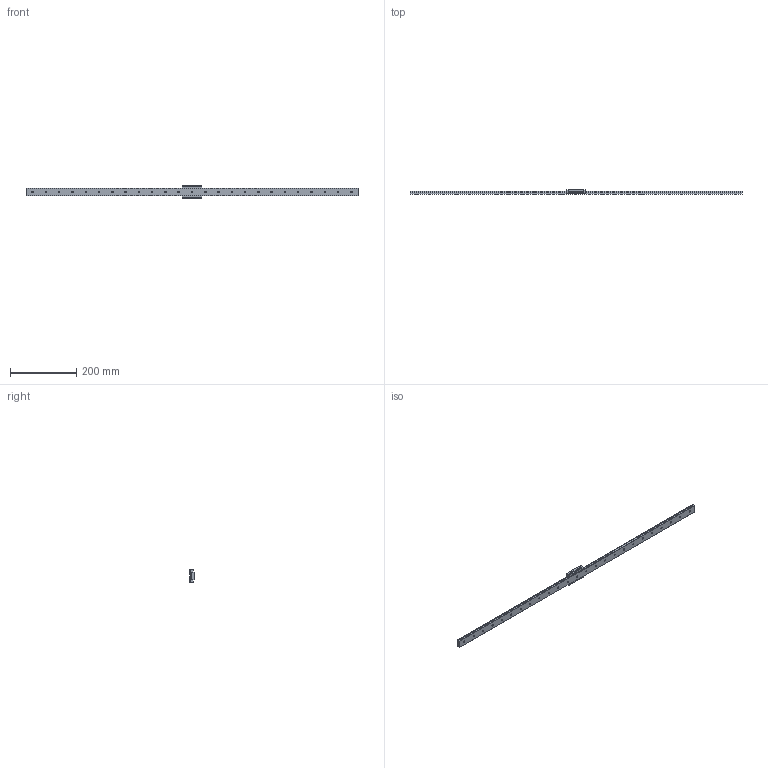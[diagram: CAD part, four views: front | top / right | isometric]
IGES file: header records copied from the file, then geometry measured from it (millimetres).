
Start section: Data from XPlus IGES,  Spatial Corp. Copyright (c) 1999-2004
Global section: file name: SRS12WN1UU1000200 470.25000.igs; native system:  By Spatial Corp.; preprocessor: XPlus ACIS/IGES 3.0; author: Noname; organization: Noname; date: 20161110.141214; units: millimetre
Bounding box: 1000 x 14 x 40 mm (x, y, z)
Surface area: 76332.1 mm2 (no closed solid volume)
Topology: 0 solids, 0 shells, 271 faces, 1368 edges, 1360 vertices
Faces by surface type: revolution 162, extrusion 109
